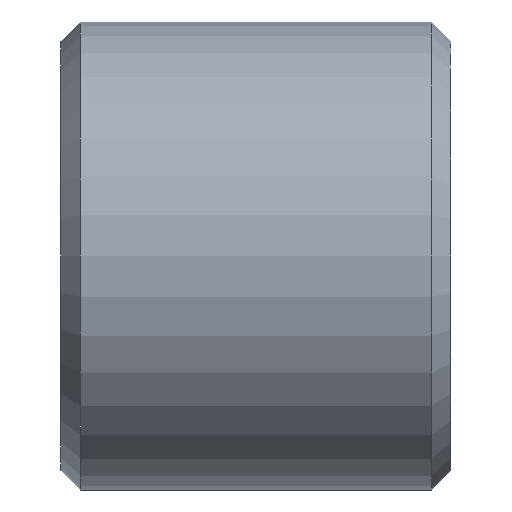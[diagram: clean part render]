
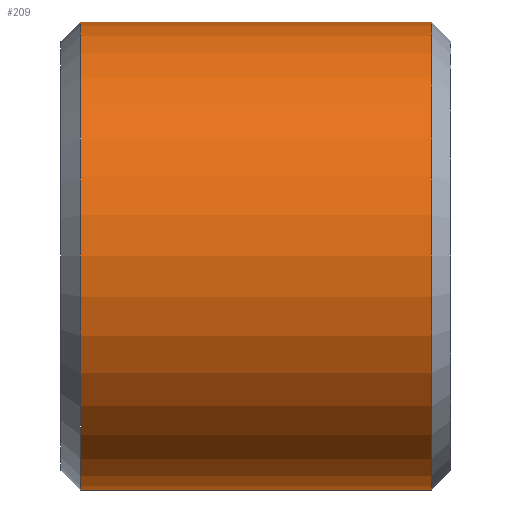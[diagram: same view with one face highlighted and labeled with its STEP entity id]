
A CAD part, front view. The second image highlights one B-rep face of the part: STEP entity #209.
In plain terms, the highlighted cylindrical face has radius 3 mm (diameter 6 mm), a partial arc.
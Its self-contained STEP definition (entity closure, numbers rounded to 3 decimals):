
#6 = ORIENTED_EDGE ( 'NONE', *, *, #144, .T. ) ;
#11 = VERTEX_POINT ( 'NONE', #12 ) ;
#12 = CARTESIAN_POINT ( 'NONE',  ( 4.75, 0., -3. ) ) ;
#17 = VECTOR ( 'NONE', #111, 1000. ) ;
#20 = EDGE_CURVE ( 'NONE', #215, #223, #290, .T. ) ;
#27 = CARTESIAN_POINT ( 'NONE',  ( 0.25, 0., -3. ) ) ;
#48 = AXIS2_PLACEMENT_3D ( 'NONE', #295, #124, #269 ) ;
#74 = CARTESIAN_POINT ( 'NONE',  ( 0., 0., -3. ) ) ;
#79 = FACE_OUTER_BOUND ( 'NONE', #158, .T. ) ;
#86 = ORIENTED_EDGE ( 'NONE', *, *, #20, .F. ) ;
#89 = CARTESIAN_POINT ( 'NONE',  ( 4.75, 0., 0. ) ) ;
#111 = DIRECTION ( 'NONE',  ( -1., 0., 0. ) ) ;
#116 = DIRECTION ( 'NONE',  ( -1., 0., 0. ) ) ;
#120 = ORIENTED_EDGE ( 'NONE', *, *, #306, .T. ) ;
#124 = DIRECTION ( 'NONE',  ( -1., 0., 0. ) ) ;
#127 = CIRCLE ( 'NONE', #312, 3. ) ;
#135 = DIRECTION ( 'NONE',  ( -1., 0., 0. ) ) ;
#144 = EDGE_CURVE ( 'NONE', #11, #248, #127, .T. ) ;
#158 = EDGE_LOOP ( 'NONE', ( #240, #6, #120, #86 ) ) ;
#181 = VECTOR ( 'NONE', #135, 1000. ) ;
#184 = AXIS2_PLACEMENT_3D ( 'NONE', #337, #116, #247 ) ;
#201 = CARTESIAN_POINT ( 'NONE',  ( 0.25, 0., 3. ) ) ;
#209 = ADVANCED_FACE ( 'NONE', ( #79 ), #239, .T. ) ;
#215 = VERTEX_POINT ( 'NONE', #27 ) ;
#223 = VERTEX_POINT ( 'NONE', #201 ) ;
#226 = DIRECTION ( 'NONE',  ( -1., 0., 0. ) ) ;
#227 = DIRECTION ( 'NONE',  ( 0., 0., 1. ) ) ;
#239 = CYLINDRICAL_SURFACE ( 'NONE', #184, 3. ) ;
#240 = ORIENTED_EDGE ( 'NONE', *, *, #241, .F. ) ;
#241 = EDGE_CURVE ( 'NONE', #11, #215, #342, .T. ) ;
#247 = DIRECTION ( 'NONE',  ( 0., 0., 1. ) ) ;
#248 = VERTEX_POINT ( 'NONE', #311 ) ;
#269 = DIRECTION ( 'NONE',  ( 0., 0., 1. ) ) ;
#290 = CIRCLE ( 'NONE', #48, 3. ) ;
#295 = CARTESIAN_POINT ( 'NONE',  ( 0.25, 0., 0. ) ) ;
#304 = LINE ( 'NONE', #324, #181 ) ;
#306 = EDGE_CURVE ( 'NONE', #248, #223, #304, .T. ) ;
#311 = CARTESIAN_POINT ( 'NONE',  ( 4.75, 0., 3. ) ) ;
#312 = AXIS2_PLACEMENT_3D ( 'NONE', #89, #226, #227 ) ;
#324 = CARTESIAN_POINT ( 'NONE',  ( 0., 0., 3. ) ) ;
#337 = CARTESIAN_POINT ( 'NONE',  ( 0., 0., 0. ) ) ;
#342 = LINE ( 'NONE', #74, #17 ) ;
